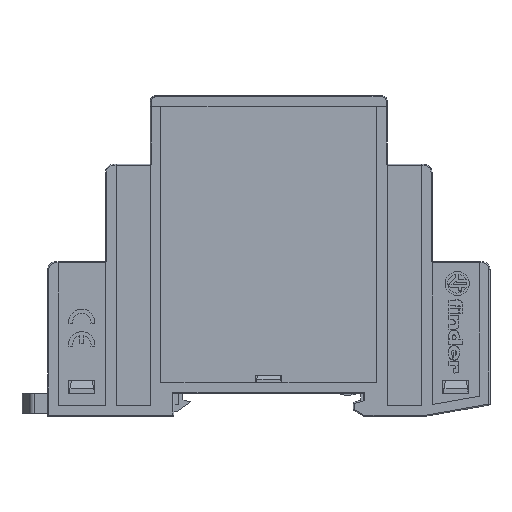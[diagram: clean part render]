
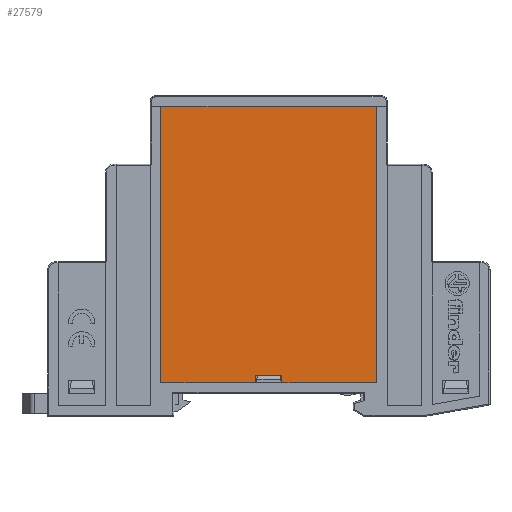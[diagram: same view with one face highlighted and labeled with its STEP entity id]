
A CAD part, left-side view. The second image highlights one B-rep face of the part: STEP entity #27579.
In plain terms, the highlighted planar face has unit normal (-1, 0, 0).
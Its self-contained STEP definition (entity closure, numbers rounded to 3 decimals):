
#911=ORIENTED_EDGE('',*,*,#8507,.F.);
#912=ORIENTED_EDGE('',*,*,#8508,.T.);
#913=ORIENTED_EDGE('',*,*,#8509,.T.);
#914=ORIENTED_EDGE('',*,*,#8510,.F.);
#915=ORIENTED_EDGE('',*,*,#8511,.F.);
#916=ORIENTED_EDGE('',*,*,#8512,.F.);
#917=ORIENTED_EDGE('',*,*,#8513,.F.);
#918=ORIENTED_EDGE('',*,*,#8514,.F.);
#8507=EDGE_CURVE('',#12861,#12862,#15912,.T.);
#8508=EDGE_CURVE('',#12861,#12863,#15913,.T.);
#8509=EDGE_CURVE('',#12863,#12864,#15914,.T.);
#8510=EDGE_CURVE('',#12865,#12864,#15915,.T.);
#8511=EDGE_CURVE('',#12866,#12865,#15916,.T.);
#8512=EDGE_CURVE('',#12867,#12866,#15917,.T.);
#8513=EDGE_CURVE('',#12868,#12867,#15918,.T.);
#8514=EDGE_CURVE('',#12862,#12868,#15919,.T.);
#12861=VERTEX_POINT('',#40442);
#12862=VERTEX_POINT('',#40443);
#12863=VERTEX_POINT('',#40445);
#12864=VERTEX_POINT('',#40447);
#12865=VERTEX_POINT('',#40449);
#12866=VERTEX_POINT('',#40451);
#12867=VERTEX_POINT('',#40453);
#12868=VERTEX_POINT('',#40455);
#15912=LINE('',#40441,#19721);
#15913=LINE('',#40444,#19722);
#15914=LINE('',#40446,#19723);
#15915=LINE('',#40448,#19724);
#15916=LINE('',#40450,#19725);
#15917=LINE('',#40452,#19726);
#15918=LINE('',#40454,#19727);
#15919=LINE('',#40456,#19728);
#19721=VECTOR('',#32823,1000.);
#19722=VECTOR('',#32824,1000.);
#19723=VECTOR('',#32825,1000.);
#19724=VECTOR('',#32826,1000.);
#19725=VECTOR('',#32827,1000.);
#19726=VECTOR('',#32828,1000.);
#19727=VECTOR('',#32829,1000.);
#19728=VECTOR('',#32830,1000.);
#23451=EDGE_LOOP('',(#911,#912,#913,#914,#915,#916,#917,#918));
#24943=FACE_BOUND('',#23451,.T.);
#26426=PLANE('',#30882);
#27579=ADVANCED_FACE('',(#24943),#26426,.T.);
#30882=AXIS2_PLACEMENT_3D('',#40440,#32821,#32822);
#32821=DIRECTION('',(-1.,0.,0.));
#32822=DIRECTION('',(0.,0.,1.));
#32823=DIRECTION('',(0.,1.,0.));
#32824=DIRECTION('',(0.,0.,1.));
#32825=DIRECTION('',(0.,-1.,0.));
#32826=DIRECTION('',(0.,0.,1.));
#32827=DIRECTION('',(0.,1.,0.));
#32828=DIRECTION('',(0.,0.,-1.));
#32829=DIRECTION('',(0.,-1.,0.));
#32830=DIRECTION('',(0.,0.,1.));
#40440=CARTESIAN_POINT('',(-125.203,10.773,-27.801));
#40441=CARTESIAN_POINT('',(-125.203,55.274,-21.5));
#40442=CARTESIAN_POINT('',(-125.203,55.274,-21.5));
#40443=CARTESIAN_POINT('',(-125.203,73.274,-21.5));
#40444=CARTESIAN_POINT('',(-125.203,55.274,-21.5));
#40445=CARTESIAN_POINT('',(-125.203,55.274,-20.));
#40446=CARTESIAN_POINT('',(-125.203,55.274,-20.));
#40447=CARTESIAN_POINT('',(-125.203,50.274,-20.));
#40448=CARTESIAN_POINT('',(-125.203,50.274,-21.5));
#40449=CARTESIAN_POINT('',(-125.203,50.274,-21.5));
#40450=CARTESIAN_POINT('',(-125.203,32.274,-21.5));
#40451=CARTESIAN_POINT('',(-125.203,32.274,-21.5));
#40452=CARTESIAN_POINT('',(-125.203,32.274,31.));
#40453=CARTESIAN_POINT('',(-125.203,32.274,31.));
#40454=CARTESIAN_POINT('',(-125.203,73.274,31.));
#40455=CARTESIAN_POINT('',(-125.203,73.274,31.));
#40456=CARTESIAN_POINT('',(-125.203,73.274,-21.5));
